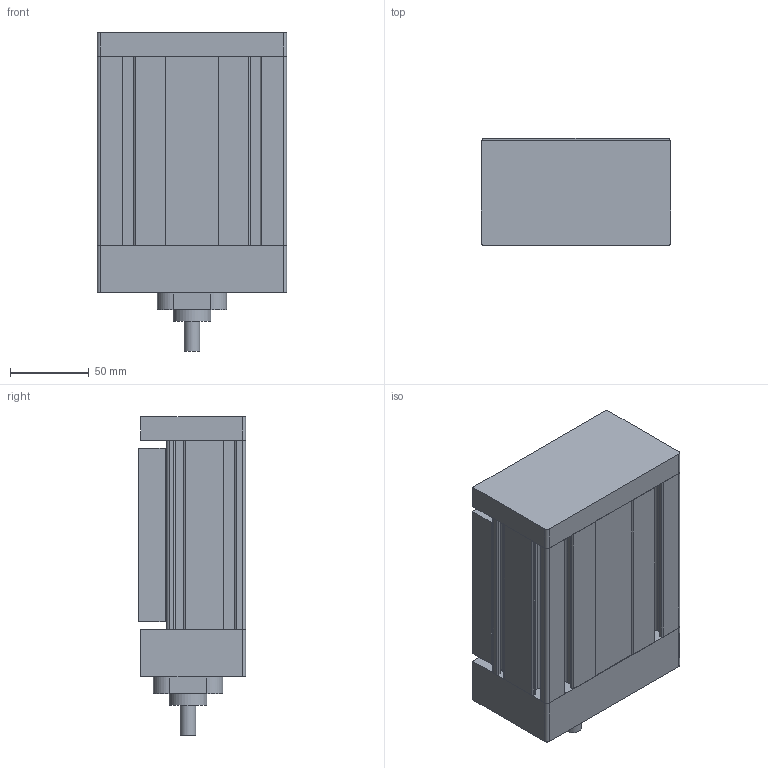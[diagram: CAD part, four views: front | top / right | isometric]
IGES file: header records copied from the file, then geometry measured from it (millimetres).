
Global section: file name: No Iges File Name specified; native system: Autodesk Inventor 2012; preprocessor: AutoDesk Inventor Iges Exporter R2012; author: disegnatore3; date: 20160912.121153; units: millimetre
Bounding box: 120 x 68 x 202 mm (x, y, z)
Volume: 1260555.9 mm3; surface area: 157710.3 mm2
Topology: 4 solids, 4 shells, 159 faces, 426 edges, 286 vertices
Faces by surface type: plane 83, cylinder 42, revolution 34
Full cylindrical faces by diameter (mm): 10 x1, 24 x1
